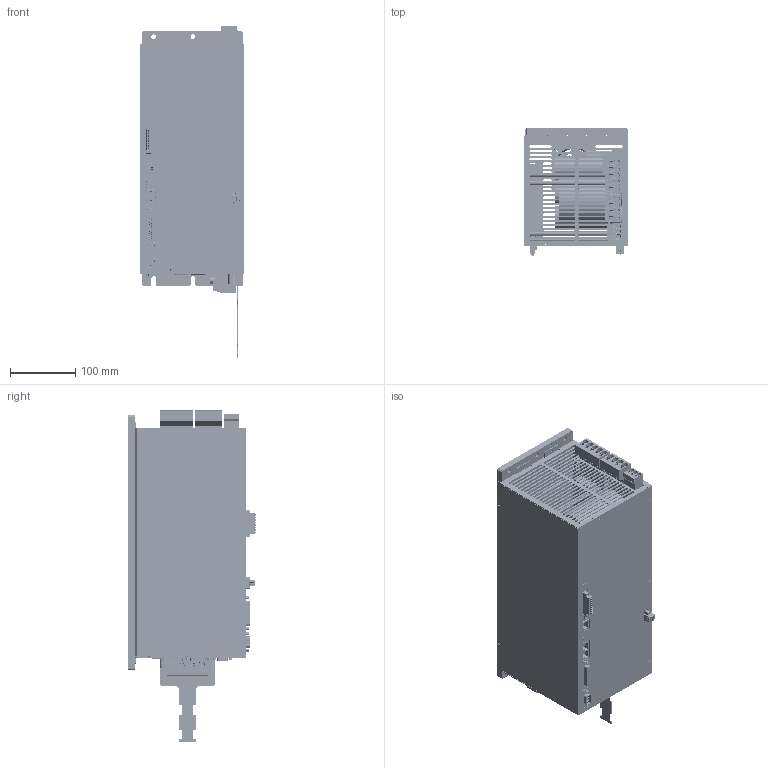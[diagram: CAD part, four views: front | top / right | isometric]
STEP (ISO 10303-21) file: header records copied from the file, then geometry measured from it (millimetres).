
FILE_DESCRIPTION(('STEP AP214'),'1');
FILE_NAME('D:/SUBVERSION/BasicLine_PROJ/HW/MECHANIK/Komplettgeräte/Komplettgerät_BL4360WC_0p1_Doku.stp','2022-12-14T16:23:34',(''),(''),'Spatial InterOp 3D',' ',' ');
FILE_SCHEMA(('automotive_design'));
Length unit declared in the file: inch
Products named in the file (152): ACIS-VolumenkÃ¶rper_478; ACIS-VolumenkÃ¶rper_584; ACIS-VolumenkÃ¶rper_598; ACIS-VolumenkÃ¶rper_612; ACIS-VolumenkÃ¶rper_618; ACIS-VolumenkÃ¶rper_624; ACIS-VolumenkÃ¶rper_638; ACIS-VolumenkÃ¶rper_652; ACIS-VolumenkÃ¶rper_658; ACIS-VolumenkÃ¶rper_664; ACIS-VolumenkÃ¶rper_670; ACIS-VolumenkÃ¶rper_676; ACIS-VolumenkÃ¶rper_692; ACIS-VolumenkÃ¶rper_698; ACIS-VolumenkÃ¶rper_712; ACIS-VolumenkÃ¶rper_726; ACIS-VolumenkÃ¶rper_732; ACIS-VolumenkÃ¶rper_908; ACIS-VolumenkÃ¶rper_926; ACIS-VolumenkÃ¶rper_932; ACIS-VolumenkÃ¶rper_938; ACIS-VolumenkÃ¶rper_944; ACIS-VolumenkÃ¶rper_950; ACIS-VolumenkÃ¶rper_956; ACIS-VolumenkÃ¶rper_962; ACIS-VolumenkÃ¶rper_968; ACIS-VolumenkÃ¶rper_990; ACIS-VolumenkÃ¶rper_1004; ACIS-VolumenkÃ¶rper_1018; ACIS-VolumenkÃ¶rper_1024; ACIS-VolumenkÃ¶rper_1030; ACIS-VolumenkÃ¶rper_1096; ACIS-VolumenkÃ¶rper_1130; ACIS-VolumenkÃ¶rper_1144; ACIS-VolumenkÃ¶rper_1158; ACIS-VolumenkÃ¶rper_1164; ACIS-VolumenkÃ¶rper_1170; ACIS-VolumenkÃ¶rper_1184; ACIS-VolumenkÃ¶rper_1190; ACIS-VolumenkÃ¶rper_1196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
Bounding box: 160.5 x 195.4 x 507.8 mm (x, y, z)
Topology: 150 solids, 1850 shells, 14737 faces, 44065 edges, 32292 vertices
Faces by surface type: plane 9488, cylinder 3453, bspline 770, cone 618, torus 241, sphere 87, extrusion 80
Full cylindrical faces by diameter (mm): 0.44 x5, 0.46 x10, 0.76 x10, 0.85 x10, 1.1 x20, 1.28 x5, 1.305 x5, 1.34 x10, 1.5 x2
Entity records: 657425 total; most frequent: CARTESIAN_POINT 140379, DIRECTION 78998, ORIENTED_EDGE 77836, EDGE_CURVE 43551, VERTEX_POINT 31873, VECTOR 31016, LINE 30936, AXIS2_PLACEMENT_3D 23991
